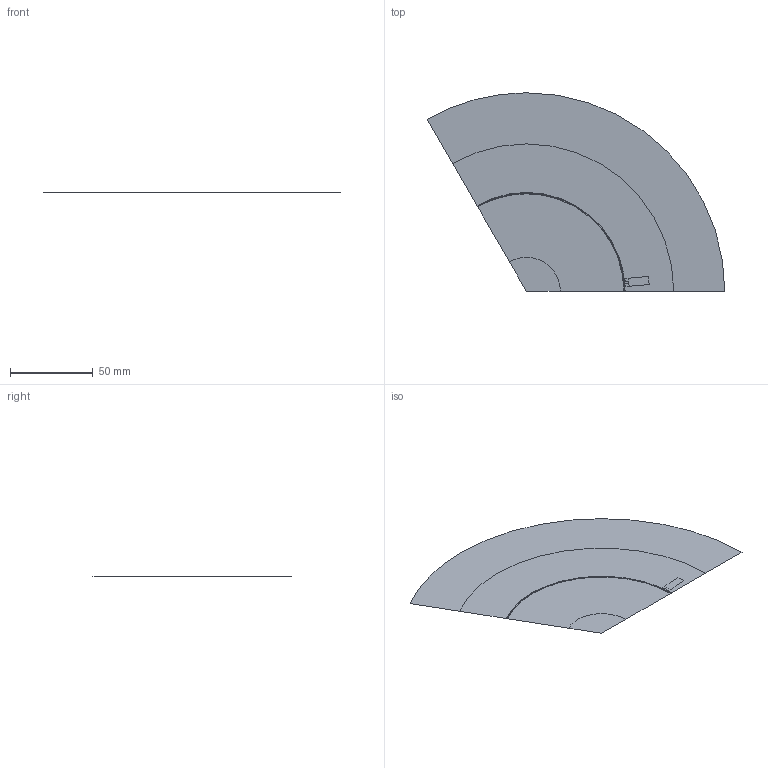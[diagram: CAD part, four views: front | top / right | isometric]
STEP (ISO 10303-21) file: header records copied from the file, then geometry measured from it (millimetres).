
FILE_DESCRIPTION(('Open CASCADE Model'),'2;1');
FILE_NAME('Open CASCADE Shape Model','2025-08-22T10:50:38',('Author'),( 'Open CASCADE'),'Open CASCADE STEP processor 7.8','Open CASCADE 7.8' ,'Unknown');
FILE_SCHEMA(('AUTOMOTIVE_DESIGN { 1 0 10303 214 1 1 1 1 }'));
Length unit declared in the file: millimetre
Products named in the file (1): Open CASCADE STEP translator 7.8 1
Bounding box: 180 x 120 x 0 mm (x, y, z)
Surface area: 15079.6 mm2 (no closed solid volume)
Topology: 0 solids, 14 shells, 14 faces, 104 edges, 104 vertices
Faces by surface type: plane 14
Entity records: 2069 total; most frequent: CARTESIAN_POINT 555, DIRECTION 254, ORIENTED_EDGE 104, EDGE_CURVE 104, VERTEX_POINT 104, SURFACE_CURVE 104, PCURVE 104, DEFINITIONAL_REPRESENTATION 104
